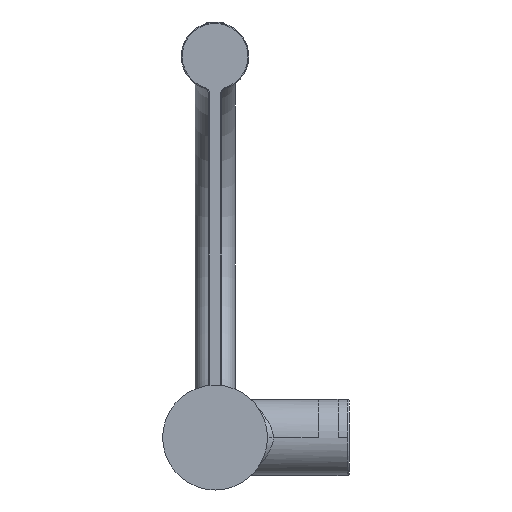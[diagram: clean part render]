
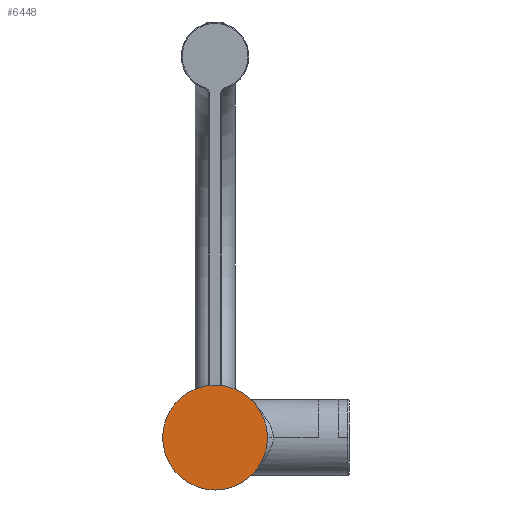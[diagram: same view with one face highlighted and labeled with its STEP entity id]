
A CAD part, front view. The second image highlights one B-rep face of the part: STEP entity #6448.
In plain terms, the highlighted planar face has unit normal (0, -1, 0).
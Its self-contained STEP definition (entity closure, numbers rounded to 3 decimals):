
#2323=CARTESIAN_POINT('',(0.,-5.,0.));
#2324=DIRECTION('',(0.,-1.,0.));
#2325=DIRECTION('',(1.,0.,0.));
#2326=AXIS2_PLACEMENT_3D('',#2323,#2324,#2325);
#2337=CARTESIAN_POINT('',(0.,-5.,0.));
#2338=DIRECTION('',(0.,1.,0.));
#2339=DIRECTION('',(1.,0.,0.));
#2340=AXIS2_PLACEMENT_3D('',#2337,#2338,#2339);
#3464=CARTESIAN_POINT('',(27.5,-5.,0.));
#3465=CARTESIAN_POINT('',(-27.5,-5.,0.));
#3466=VERTEX_POINT('',#3464);
#3467=VERTEX_POINT('',#3465);
#6439=CARTESIAN_POINT('',(0.,-5.,0.));
#6440=DIRECTION('',(0.,-1.,0.));
#6441=DIRECTION('',(-1.,0.,0.));
#6442=AXIS2_PLACEMENT_3D('',#6439,#6440,#6441);
#6443=PLANE('',#6442);
#6444=ORIENTED_EDGE('',*,*,#6405,.F.);
#6445=ORIENTED_EDGE('',*,*,#6426,.T.);
#6446=EDGE_LOOP('',(#6444,#6445));
#6447=FACE_OUTER_BOUND('',#6446,.F.);
#2327=CIRCLE('',#2326,27.5);
#2341=CIRCLE('',#2340,27.5);
#6405=EDGE_CURVE('',#3466,#3467,#2327,.T.);
#6426=EDGE_CURVE('',#3466,#3467,#2341,.T.);
#6448=ADVANCED_FACE('',(#6447),#6443,.T.);
